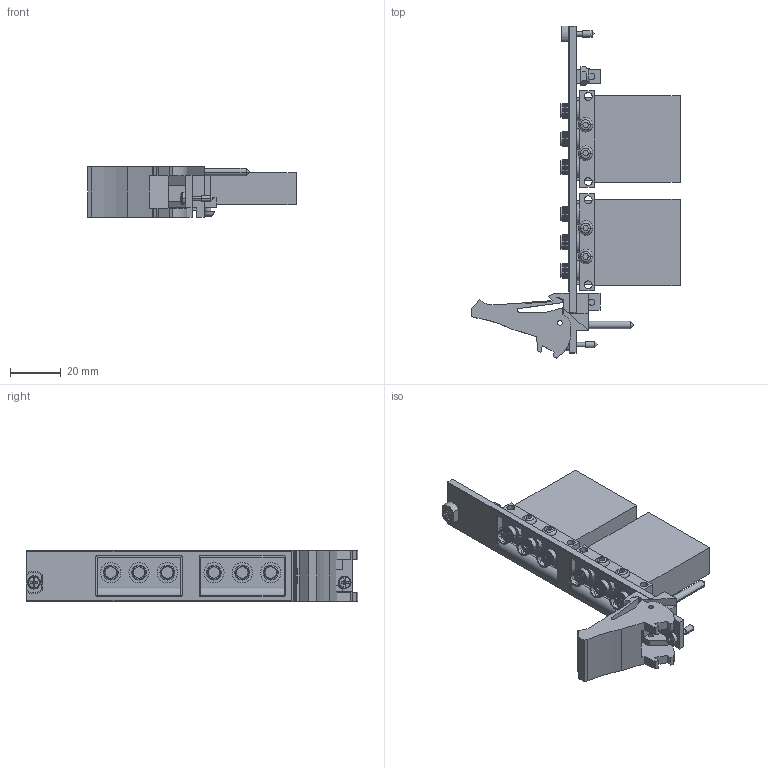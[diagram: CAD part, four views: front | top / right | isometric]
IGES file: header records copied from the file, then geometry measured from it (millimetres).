
Start section:  PTC IGES file: cu_pxi-2799.igs
Global section: file name: cu_pxi-2799.igs; native system: Pro/ENGINEER by Parametric Technology Corporation; preprocessor: 2011490; author: jjorden; organization: Unknown; date: 20130108.155414; units: inch
Bounding box: 81.91 x 130.61 x 20.02 mm (x, y, z)
Surface area: 22533.5 mm2 (no closed solid volume)
Topology: 0 solids, 0 shells, 910 faces, 4224 edges, 4208 vertices
Faces by surface type: revolution 477, bspline 433
